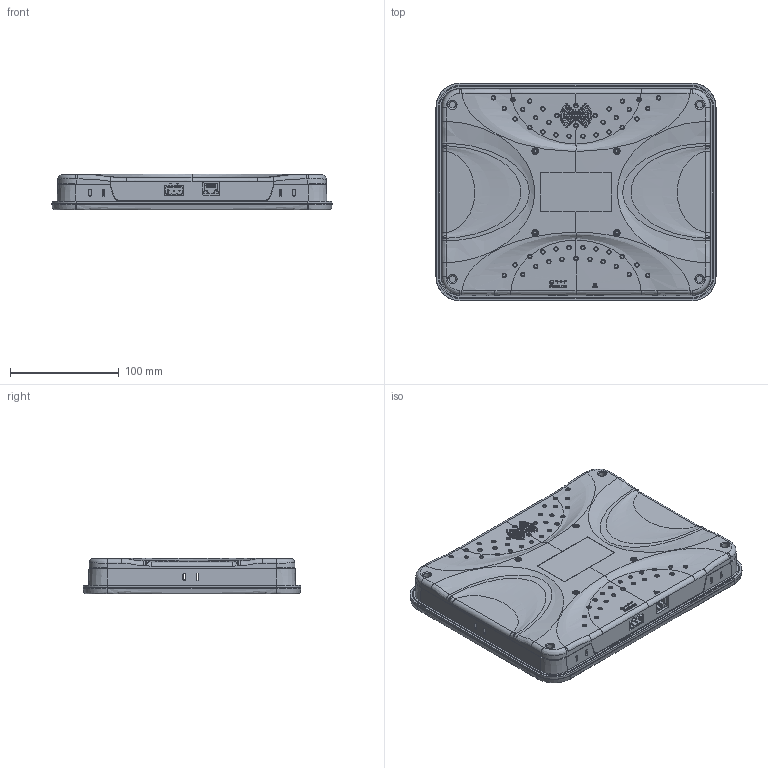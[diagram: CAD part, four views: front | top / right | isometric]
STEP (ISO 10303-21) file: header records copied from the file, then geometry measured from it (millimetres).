
FILE_DESCRIPTION (( 'STEP AP203' ), '1' );
FILE_NAME ('cMT-iV5_130918.STEP', '2017-07-28T06:21:31', ( 'annayang' ), ( '' ), 'SwSTEP 2.0', 'SolidWorks 2011', '' );
FILE_SCHEMA (( 'CONFIG_CONTROL_DESIGN' ));
Products named in the file (1): cMT-iV5_130918
Bounding box: 257.2 x 199.7 x 32.73 mm (x, y, z)
Surface area: 209380.8 mm2 (no closed solid volume)
Topology: 0 solids, 83 shells, 1072 faces, 3755 edges, 2677 vertices
Faces by surface type: cylinder 357, bspline 333, plane 238, cone 138, sphere 6
Entity records: 76200 total; most frequent: CARTESIAN_POINT 48746, ORIENTED_EDGE 5895, DIRECTION 4052, EDGE_CURVE 3745, VERTEX_POINT 2677, LINE 1706, VECTOR 1706, B_SPLINE_CURVE_WITH_KNOTS 1507
